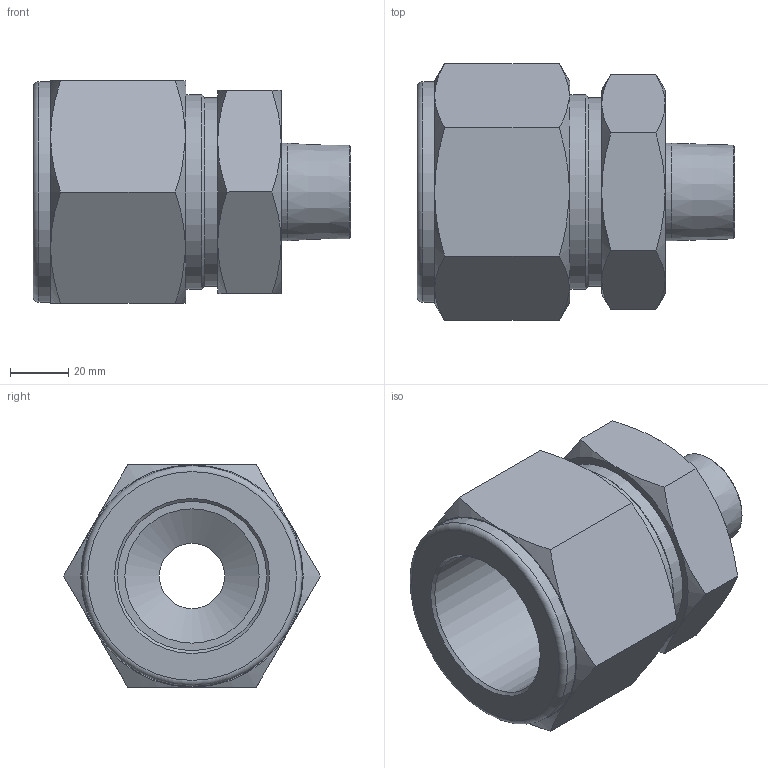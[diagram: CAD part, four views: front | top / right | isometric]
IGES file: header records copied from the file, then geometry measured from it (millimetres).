
Global section: file name: No Iges File Name specified; native system: Autodesk Inventor 2012; preprocessor: AutoDesk Inventor Iges Exporter R2012; author: 硅己绕,,1; organization: 1; date: 20150603.093601; units: millimetre
Bounding box: 108.84 x 87.99 x 76.2 mm (x, y, z)
Volume: 243749.8 mm3; surface area: 47017.2 mm2
Topology: 1 solids, 1 shells, 52 faces, 107 edges, 62 vertices
Faces by surface type: cone 22, plane 19, revolution 6, cylinder 4, torus 1
Full cylindrical faces by diameter (mm): 33.4 x1, 64.7 x1, 66.64 x1, 75.5 x1
